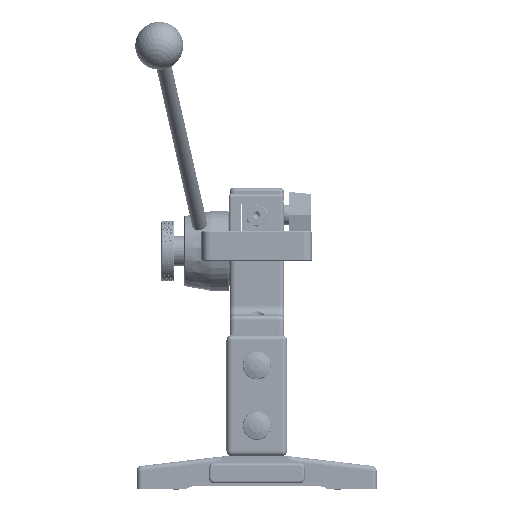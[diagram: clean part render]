
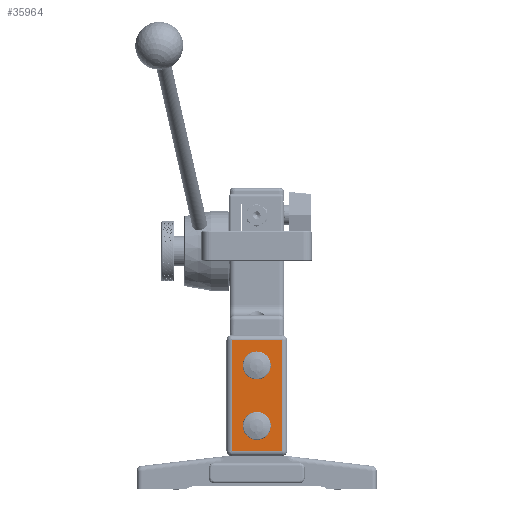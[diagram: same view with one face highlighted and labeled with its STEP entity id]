
A CAD part, left-side view. The second image highlights one B-rep face of the part: STEP entity #35964.
In plain terms, the highlighted planar face has unit normal (-1, 0, 0).
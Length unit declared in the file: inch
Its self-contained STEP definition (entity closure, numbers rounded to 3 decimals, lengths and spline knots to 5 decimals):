
#35903=CARTESIAN_POINT('',(46.6418,22.30397,22.29427));
#35904=DIRECTION('',(-1.0,0.0,0.0));
#35905=DIRECTION('',(0.0,0.0,-1.0));
#35906=AXIS2_PLACEMENT_3D('',#35903,#35904,#35905);
#35907=PLANE('',#35906);
#35908=CARTESIAN_POINT('',(46.6418,21.67897,20.91927));
#35909=VERTEX_POINT('',#35908);
#35910=CARTESIAN_POINT('',(46.6418,21.67897,23.66927));
#35911=VERTEX_POINT('',#35910);
#35912=CARTESIAN_POINT('',(46.6418,21.67897,20.91927));
#35913=DIRECTION('',(0.0,0.0,1.0));
#35914=VECTOR('',#35913,2.75);
#35915=LINE('',#35912,#35914);
#35916=EDGE_CURVE('',#35909,#35911,#35915,.T.);
#35917=ORIENTED_EDGE('',*,*,#35916,.T.);
#35918=CARTESIAN_POINT('',(46.6418,22.92897,23.66927));
#35919=VERTEX_POINT('',#35918);
#35920=CARTESIAN_POINT('',(46.6418,21.67897,23.66927));
#35921=DIRECTION('',(0.0,1.0,0.0));
#35922=VECTOR('',#35921,1.25);
#35923=LINE('',#35920,#35922);
#35924=EDGE_CURVE('',#35911,#35919,#35923,.T.);
#35925=ORIENTED_EDGE('',*,*,#35924,.T.);
#35926=CARTESIAN_POINT('',(46.6418,22.92897,20.91927));
#35927=VERTEX_POINT('',#35926);
#35928=CARTESIAN_POINT('',(46.6418,22.92897,23.66927));
#35929=DIRECTION('',(0.0,0.0,-1.0));
#35930=VECTOR('',#35929,2.75);
#35931=LINE('',#35928,#35930);
#35932=EDGE_CURVE('',#35919,#35927,#35931,.T.);
#35933=ORIENTED_EDGE('',*,*,#35932,.T.);
#35934=CARTESIAN_POINT('',(46.6418,22.92897,20.91927));
#35935=DIRECTION('',(0.0,-1.0,0.0));
#35936=VECTOR('',#35935,1.25);
#35937=LINE('',#35934,#35936);
#35938=EDGE_CURVE('',#35927,#35909,#35937,.T.);
#35939=ORIENTED_EDGE('',*,*,#35938,.T.);
#35940=EDGE_LOOP('',(#35917,#35925,#35933,#35939));
#35941=FACE_OUTER_BOUND('',#35940,.T.);
#35942=CARTESIAN_POINT('',(46.6418,21.95647,23.04427));
#35943=VERTEX_POINT('',#35942);
#35944=CARTESIAN_POINT('',(46.6418,22.30397,23.04427));
#35945=DIRECTION('',(1.0,0.0,0.0));
#35946=DIRECTION('',(0.0,-1.0,0.0));
#35947=AXIS2_PLACEMENT_3D('',#35944,#35945,#35946);
#35948=CIRCLE('',#35947,0.3475);
#35949=EDGE_CURVE('',#35943,#35943,#35948,.T.);
#35950=ORIENTED_EDGE('',*,*,#35949,.T.);
#35951=EDGE_LOOP('',(#35950));
#35952=FACE_BOUND('',#35951,.T.);
#35953=CARTESIAN_POINT('',(46.6418,21.95647,21.54427));
#35954=VERTEX_POINT('',#35953);
#35955=CARTESIAN_POINT('',(46.6418,22.30397,21.54427));
#35956=DIRECTION('',(1.0,0.0,0.0));
#35957=DIRECTION('',(0.0,-1.0,0.0));
#35958=AXIS2_PLACEMENT_3D('',#35955,#35956,#35957);
#35959=CIRCLE('',#35958,0.3475);
#35960=EDGE_CURVE('',#35954,#35954,#35959,.T.);
#35961=ORIENTED_EDGE('',*,*,#35960,.T.);
#35962=EDGE_LOOP('',(#35961));
#35963=FACE_BOUND('',#35962,.T.);
#35964=ADVANCED_FACE('',(#35941,#35952,#35963),#35907,.T.);
